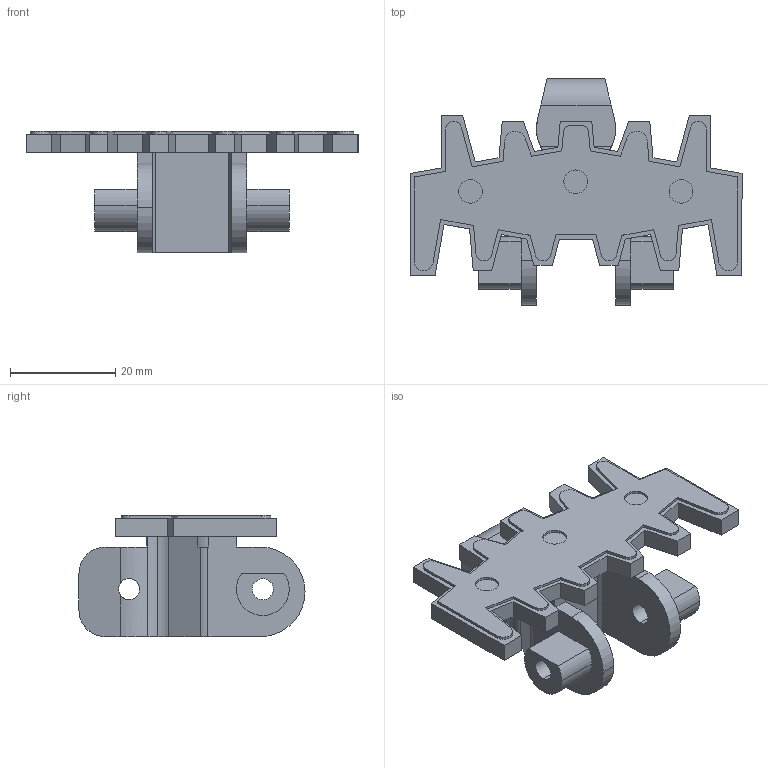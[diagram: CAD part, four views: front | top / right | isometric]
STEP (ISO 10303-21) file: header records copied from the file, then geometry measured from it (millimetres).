
FILE_DESCRIPTION (( 'STEP AP214' ), '1' );
FILE_NAME ('FSST-5.STEP', '2011-04-14T11:14:42', ( '.' ), ( '' ), 'SwSTEP 2.0', 'SolidWorks 2010', '' );
FILE_SCHEMA (( 'AUTOMOTIVE_DESIGN' ));
Length unit declared in the file: millimetre
Products named in the file (1): FSST-5
Bounding box: 63 x 42.9 x 23 mm (x, y, z)
Volume: 13526.7 mm3; surface area: 7751.5 mm2
Topology: 1 solids, 1 shells, 158 faces, 452 edges, 300 vertices
Faces by surface type: plane 112, cylinder 46
Entity records: 6992 total; most frequent: CARTESIAN_POINT 1025, ORIENTED_EDGE 904, DIRECTION 842, EDGE_CURVE 452, VECTOR 352, LINE 352, VERTEX_POINT 300, AXIS2_PLACEMENT_3D 245
